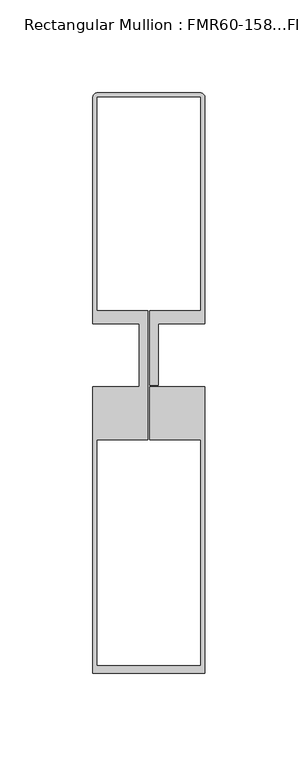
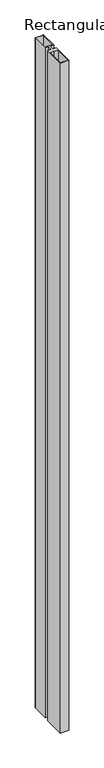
"""IFC4 building model written with IfcOpenShell, lengths in millimetres: member geometry, Rectangular Mullion : FMR60-158...FM60-120."""

from ifc_helpers import new_model, si_unit, point, frame, frame_2d, origin, place, context, project, spatial, polyline, circle_curve, trimmed, segment, composite_curve, outline, extrude, source, transform, mapped, element, save


def rectangular_mullion_fmr60_158_fm60_120_02d9d84b(model_context):
    return source(origin(), model_context, "Body", "SweptSolid", [
        extrude(outline(composite_curve([segment(polyline([(-28.0, 141.0574739), (28.0, 141.0574739)]), True, "CONTINUOUS"), segment(trimmed(circle_curve(frame_2d((28.0, 139.0574739)), 2.0), [point((28.0, 141.0574739))], [point((30.0, 139.0574739))], False, "CARTESIAN"), True, "CONTINUOUS"), segment(polyline([(30.0, 139.0574739), (30.0, 17.0), (5.0, 17.0), (5.0, -16.2), (0.5, -16.2), (0.5, 23.8476589), (28.0000412, 23.8476589), (28.0000412, 139.0574739), (-28.0000412, 139.0574739), (-28.0000412, 23.8476589), (-0.5, 23.8476589), (-0.5, -45.5034642), (-28.0, -45.5034642), (-28.0, -167.009342), (28.0, -167.009342), (28.0, -45.5034642), (0.5, -45.5034642), (0.5, -17.0), (30.0, -17.0), (30.0, -171.009342), (-30.0, -171.009342), (-30.0, -17.0), (-5.0, -17.0), (-5.0, 17.0), (-30.0, 17.0), (-30.0, 139.0574739)]), True, "CONTINUOUS"), segment(trimmed(circle_curve(frame_2d((-28.0, 139.0574739)), 2.0), [point((-30.0, 139.0574739))], [point((-28.0, 141.0574739))], False, "CARTESIAN"), True, "CONTINUOUS")], self_intersect=False)), frame((0.0, 0.0, -5000.0), z_axis=(0.0, 0.0, 1.0), x_axis=(1.0, 0.0, 0.0)), (0.0, 0.0, 1.0), 5000.0),
    ])


if __name__ == "__main__":
    model = new_model("IFC4")
    model_context = context("Model", 3, world=origin())
    ifc_project = project(units=[si_unit("LENGTHUNIT", "METRE", prefix="MILLI")], contexts=[model_context])
    site = spatial("IfcSite", under=ifc_project)
    building = spatial("IfcBuilding", under=site)
    placement = place(None, origin())
    rectangular_mullion_fmr60_158_fm60_120_shape = rectangular_mullion_fmr60_158_fm60_120_02d9d84b(model_context)
    element("IfcMember", 1, ObjectType="Rectangular Mullion : FMR60-158...FM60-120", at=placement, inside=building, context=model_context, shape_type="MappedRepresentation", body=[
        mapped(rectangular_mullion_fmr60_158_fm60_120_shape, transform((0.0, 0.0, 0.0), x_axis=(1.0, 0.0, 0.0), y_axis=(0.0, 1.0, 0.0), z_axis=(0.0, 0.0, 1.0))),
    ])
    save(model, "model.ifc")
